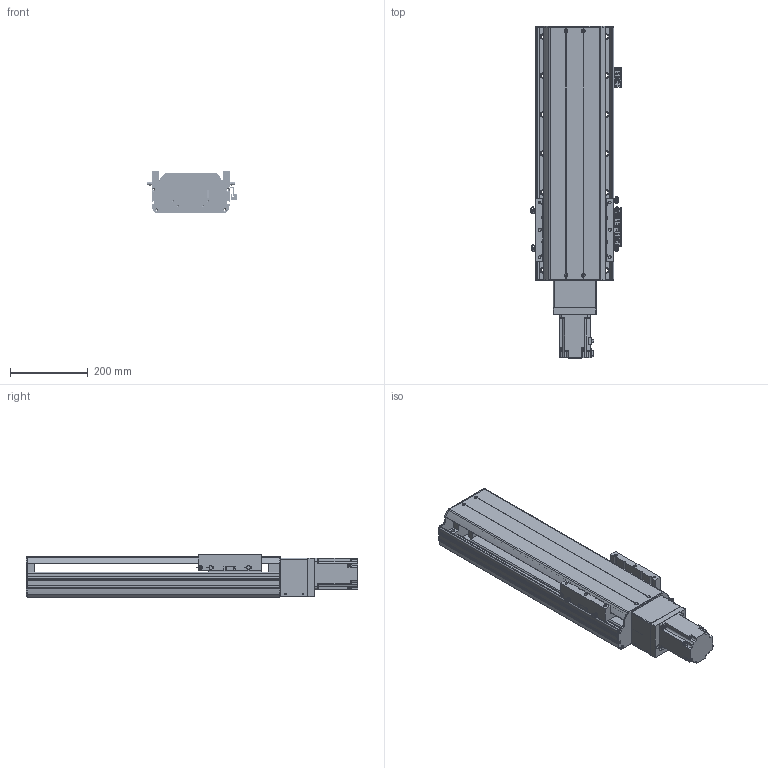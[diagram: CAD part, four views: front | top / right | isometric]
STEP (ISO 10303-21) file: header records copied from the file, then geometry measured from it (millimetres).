
FILE_DESCRIPTION(/* description */ ('MANUFACTURE'),/* implementation_level */ '2;1');
FILE_NAME(/* name */ '\\192.168.0.160\disk1\HAN SHIN Master\B-설계부문\C-표준\B-2024년\BC02-표준도면\+로봇 개선표준도면\표준 승인도 작업 폴더\3D\HG200\HG200직렬\HG200-S70-N-0400-R10.stp',/* time_stamp */ '2024-05-23T11:11:42+09:00',/* author */ ('User'),/* organization */ (''),/* preprocessor_version */ 'ST-DEVELOPER v18.1',/* originating_system */ 'Autodesk Inventor 2022',/* authorisation */ 'LIP');
FILE_SCHEMA (('AUTOMOTIVE_DESIGN { 1 0 10303 214 3 1 1 }'));
Products named in the file (19): HR200-S70-W0500-R10; HR200 S BASE-개선; HR180 FRONT BLOCK; HR180 FRONT BLOCK_1; HR200 FRONT COVER; HR120 STOPPER; HR200 SENSOR DOG; HR200 S UPCOVER; hsr_ftht_A-M6F_grease_nipple_joint; NIPPLE CAP(신규); SDWC-54C; HR200 FRONT COVER_1; HR200 TABLE (W,N); COUPLING COVER 400W-R1; hg-kr73_; HG200 S MOTOR PLATE-M; HG200 S MOTOR PLATE-B; SENSOR BRK(EE-SX674A); EE_SX674A
Assembly tree (31 placements, depth 2):
  HR200-S70-W0500-R10
    HR200 S BASE-개선
    HR180 FRONT BLOCK
    HR180 FRONT BLOCK_1
    HR200 FRONT COVER
    HR120 STOPPER  x2
    HR200 SENSOR DOG
    SENSOR BRK(EE-SX674A)  x3
    EE_SX674A  x3
    HR200 S UPCOVER
    NIPPLE CAP(신규)  x5
    hsr_ftht_A-M6F_grease_nipple_joint  x5
    SDWC-54C
    HR200 FRONT COVER_1
    HR200 TABLE (W,N)
    COUPLING COVER 400W-R1
    hg-kr73_
    HG200 S MOTOR PLATE-M
    HG200 S MOTOR PLATE-B
Bounding box: 231.46 x 852 x 109 mm (x, y, z)
Volume: 5493484.8 mm3; surface area: 1394813.4 mm2
Topology: 31 solids, 49 shells, 2578 faces, 6954 edges, 4530 vertices
Faces by surface type: plane 1181, cylinder 922, cone 289, torus 122, sphere 40, bspline 24
Full cylindrical faces by diameter (mm): 2.459 x26, 3 x12, 3.242 x18, 3.3 x8, 3.5 x6, 4 x26, 4.134 x8, 4.2 x6, 4.5 x18, 4.917 x50, 5 x30, 5.34 x8, 5.35 x8, 5.4 x16, 5.5 x4, 5.6 x5, 5.9 x4, 6 x9, 6.5 x10, 6.6 x32, 6.647 x24, 7 x12, 7.6 x4, 8 x4, 8.5 x4, 9 x46, 9.85 x8, 10 x1, 11 x32, 14 x14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
Entity records: 68488 total; most frequent: CARTESIAN_POINT 14395, DIRECTION 11357, ORIENTED_EDGE 10720, EDGE_CURVE 5360, AXIS2_PLACEMENT_3D 4235, VERTEX_POINT 3557, LINE 2887, VECTOR 2887
